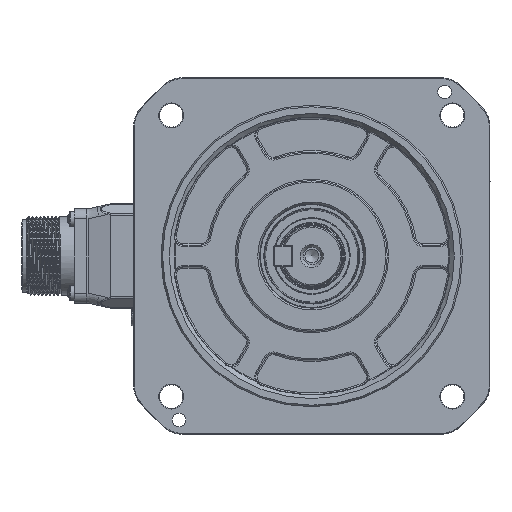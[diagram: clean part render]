
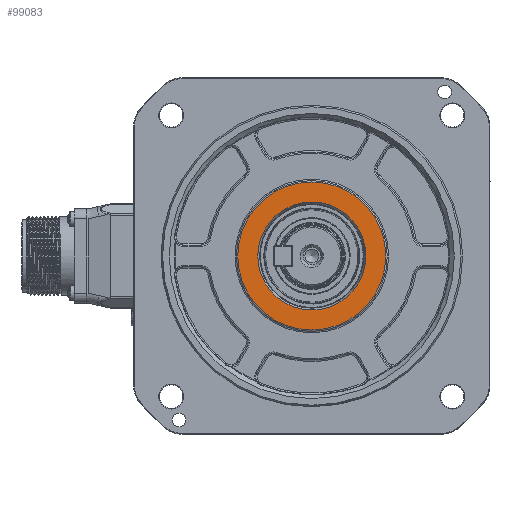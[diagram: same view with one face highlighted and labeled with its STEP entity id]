
A CAD part, left-side view. The second image highlights one B-rep face of the part: STEP entity #99083.
In plain terms, the highlighted planar face has unit normal (-1, 0, 0).
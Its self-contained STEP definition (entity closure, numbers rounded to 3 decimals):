
#5674 = PLANE ( 'NONE',  #82347 ) ;
#11422 = VERTEX_POINT ( 'NONE', #93906 ) ;
#12419 = CIRCLE ( 'NONE', #74445, 27. ) ;
#14341 = CARTESIAN_POINT ( 'NONE',  ( 0.8, 0., 0. ) ) ;
#42659 = CARTESIAN_POINT ( 'NONE',  ( 0.8, 27.5, 0. ) ) ;
#48677 = EDGE_CURVE ( 'NONE', #101358, #101358, #12419, .T. ) ;
#59607 = DIRECTION ( 'NONE',  ( -1., 0., 0. ) ) ;
#65595 = CARTESIAN_POINT ( 'NONE',  ( 0.8, 0., -27. ) ) ;
#66632 = ORIENTED_EDGE ( 'NONE', *, *, #48677, .T. ) ;
#71162 = DIRECTION ( 'NONE',  ( 1., 0., 0. ) ) ;
#71519 = CIRCLE ( 'NONE', #96561, 19.693 ) ;
#74445 = AXIS2_PLACEMENT_3D ( 'NONE', #85702, #59607, #77185 ) ;
#77185 = DIRECTION ( 'NONE',  ( 0., 0., -1. ) ) ;
#82347 = AXIS2_PLACEMENT_3D ( 'NONE', #42659, #71162, #99026 ) ;
#82420 = ORIENTED_EDGE ( 'NONE', *, *, #106618, .F. ) ;
#85702 = CARTESIAN_POINT ( 'NONE',  ( 0.8, 0., 0. ) ) ;
#88742 = FACE_BOUND ( 'NONE', #110519, .T. ) ;
#93906 = CARTESIAN_POINT ( 'NONE',  ( 0.8, 0., -19.693 ) ) ;
#96561 = AXIS2_PLACEMENT_3D ( 'NONE', #14341, #108926, #97998 ) ;
#97998 = DIRECTION ( 'NONE',  ( 0., 0., -1. ) ) ;
#99026 = DIRECTION ( 'NONE',  ( 0., 0., -1. ) ) ;
#99083 = ADVANCED_FACE ( 'NONE', ( #88742, #117234 ), #5674, .F. ) ;
#101358 = VERTEX_POINT ( 'NONE', #65595 ) ;
#106179 = EDGE_LOOP ( 'NONE', ( #66632 ) ) ;
#106618 = EDGE_CURVE ( 'NONE', #11422, #11422, #71519, .T. ) ;
#108926 = DIRECTION ( 'NONE',  ( -1., 0., 0. ) ) ;
#110519 = EDGE_LOOP ( 'NONE', ( #82420 ) ) ;
#117234 = FACE_OUTER_BOUND ( 'NONE', #106179, .T. ) ;
